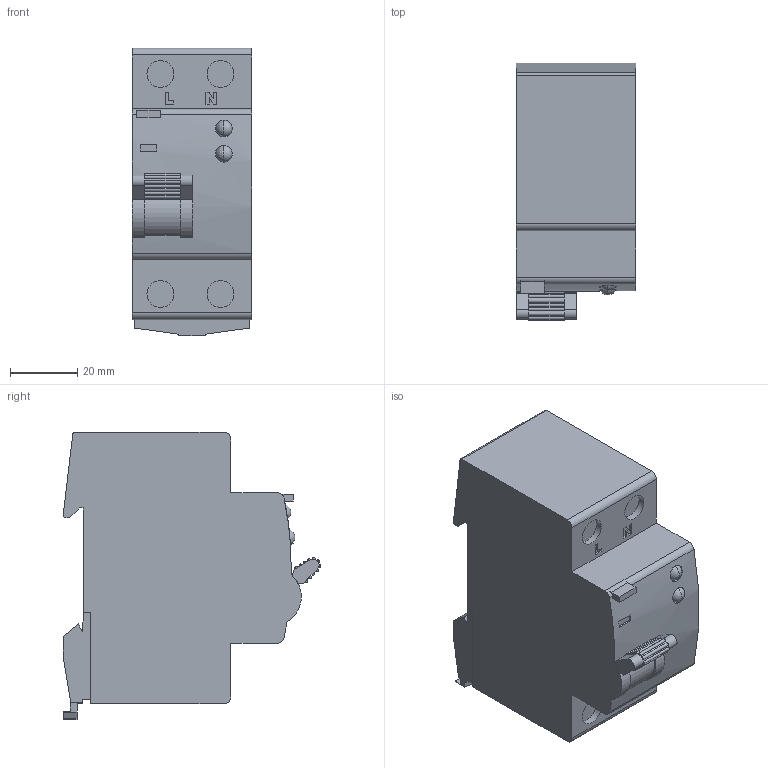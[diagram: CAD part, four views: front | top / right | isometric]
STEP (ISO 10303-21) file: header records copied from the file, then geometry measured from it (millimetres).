
FILE_DESCRIPTION(/* description */ (''),/* implementation_level */ '2;1');
FILE_NAME(/* name */ 'C:\Users\i.voinskiy\Desktop\Модели\STEP\УЗДП_АВДТ.stp',/* time_stamp */ '2026-05-14T11:47:50+03:00',/* author */ ('i.voinskiy'),/* organization */ (''),/* preprocessor_version */ 'ST-DEVELOPER v18.1',/* originating_system */ 'Autodesk Inventor 2022',/* authorisation */ '');
FILE_SCHEMA (('AUTOMOTIVE_DESIGN { 1 0 10303 214 3 1 1 }'));
Length unit declared in the file: millimetre
Products named in the file (9): УЗДП_АВДТ; УЗДП_АВДТ_1; УЗДП_АВДТ_1_1; УЗДП_АВДТ_2; УЗДП_АВДТ_3; УЗДП_АВДТ_4; УЗДП_АВДТ_5; УЗДП_АВДТ_6; УЗДП_АВДТ_7
Assembly tree (8 placements, depth 2):
  УЗДП_АВДТ
    УЗДП_АВДТ_1
    УЗДП_АВДТ_1_1
    УЗДП_АВДТ_2
    УЗДП_АВДТ_3
    УЗДП_АВДТ_4
    УЗДП_АВДТ_5
    УЗДП_АВДТ_6
    УЗДП_АВДТ_7
Bounding box: 35.6 x 76.67 x 85.6 mm (x, y, z)
Volume: 162722.7 mm3; surface area: 24449 mm2
Topology: 18 solids, 18 shells, 173 faces, 389 edges, 258 vertices
Faces by surface type: plane 128, cylinder 41, sphere 4
Entity records: 5234 total; most frequent: CARTESIAN_POINT 967, DIRECTION 855, ORIENTED_EDGE 770, EDGE_CURVE 385, LINE 287, VECTOR 287, AXIS2_PLACEMENT_3D 284, VERTEX_POINT 258
